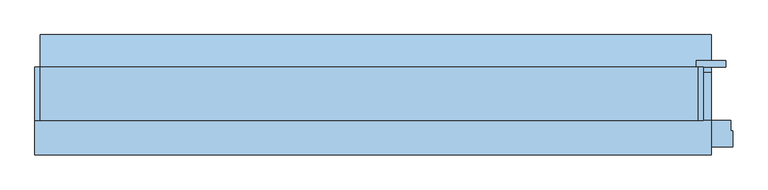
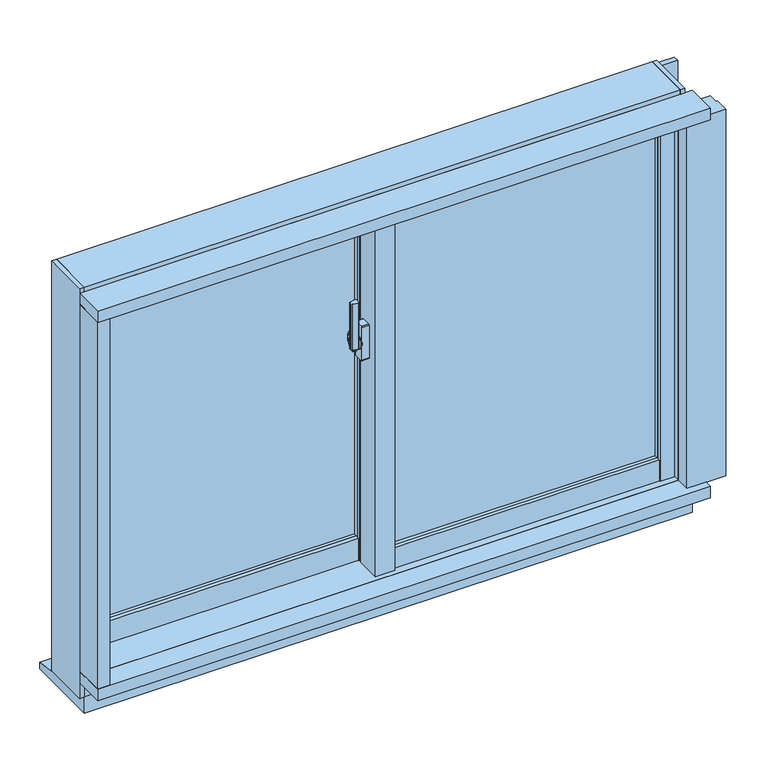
"""IFC4 building model written with IfcOpenShell, lengths in millimetres: window geometry, FNSⅡ100R_個別防火_RC枠_単窓 : 引違."""

from ifc_helpers import new_model, si_unit, point, frame, frame_2d, origin, place, context, project, spatial, polyline, circle_curve, trimmed, segment, composite_curve, outline, extrude, faceted_brep, source, transform, mapped, element, save
from ifc_brep_helpers import plane_surface, cylinder_surface, revolved_surface, advanced_brep


def window_9ac953a6(model_context):
    return source(origin(), model_context, "Body", "SolidModel", [
        extrude(outline(composite_curve([segment(polyline([(-39.0, -20.4), (-39.0, -28.6)]), True, "CONTINUOUS"), segment(trimmed(circle_curve(frame_2d((-41.0, -28.6)), 2.0), [point((-39.0, -28.6))], [point((-41.3606557, -30.5672131))], False, "CARTESIAN"), True, "CONTINUOUS"), segment(polyline([(-41.3606557, -30.5672131), (-52.3606557, -28.5505464)]), True, "CONTINUOUS"), segment(trimmed(circle_curve(frame_2d((-52.0, -26.5833333)), 2.0), [point((-52.3606557, -28.5505464))], [point((-54.0, -26.5833333))], False, "CARTESIAN"), True, "CONTINUOUS"), segment(polyline([(-54.0, -26.5833333), (-54.0, -22.4166667)]), True, "CONTINUOUS"), segment(trimmed(circle_curve(frame_2d((-52.0, -22.4166667)), 2.0), [point((-54.0, -22.4166667))], [point((-52.3606557, -20.4494536))], False, "CARTESIAN"), True, "CONTINUOUS"), segment(polyline([(-52.3606557, -20.4494536), (-41.3606557, -18.4327869)]), True, "CONTINUOUS"), segment(trimmed(circle_curve(frame_2d((-41.0, -20.4)), 2.0), [point((-41.3606557, -18.4327869))], [point((-39.0, -20.4))], False, "CARTESIAN"), True, "CONTINUOUS")], self_intersect=False)), frame((0.0, 0.0, 1390.0), z_axis=(0.0, 0.0, 1.0), x_axis=(1.0, 0.0, 0.0)), (0.0, 0.0, 1.0), 100.0),
        advanced_brep(
        [(-37.5, -16.1765715, 1421.7333311), (-45.5, -16.1765715, 1421.7333311), (-45.5, -16.5648001, 1420.2844424), (-39.0, -16.5648001, 1420.2844424), (-39.0, -18.3765334, 1413.5229616), (-37.5, -18.3765334, 1413.5229616), (-39.0, -18.3533883, 1379.3190372), (-45.5, -18.3533883, 1379.3190372), (-45.5, -18.092916, 1377.8418256), (-37.5, -18.092916, 1377.8418256), (-37.5, -19.5689255, 1386.2126915), (-39.0, -19.5689255, 1386.2126915)],
        [
            (0, 1),
            (1, 2),
            (2, 3),
            (3, 4),
            (4, 5),
            (5, 0),
            (6, 7),
            (7, 8),
            (8, 9),
            (9, 10),
            (10, 11),
            (11, 6),
            (0, 9, circle_curve(frame((-37.5, -22.0, 1400.0), z_axis=(-1.0, 0.0, 0.0), x_axis=(0.0, 0.25881904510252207, 0.965925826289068)), 22.5)),
            (8, 1, circle_curve(frame((-45.5, -22.0, 1400.0), z_axis=(1.0, 0.0, 0.0), x_axis=(0.0, 0.25881904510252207, 0.965925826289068)), 22.5)),
            (7, 2, circle_curve(frame((-45.5, -22.0, 1400.0), z_axis=(1.0, 0.0, 0.0), x_axis=(0.0, 0.25881904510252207, 0.965925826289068)), 21.0)),
            (6, 3, circle_curve(frame((-39.0, -22.0, 1400.0), z_axis=(1.0, 0.0, 0.0), x_axis=(0.0, 0.25881904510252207, 0.965925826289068)), 21.0)),
            (11, 4, circle_curve(frame((-39.0, -22.0, 1400.0), z_axis=(-1.0, 0.0, 0.0), x_axis=(0.0, -1.0, 0.0)), 14.0)),
            (5, 10, circle_curve(frame((-37.5, -22.0, 1400.0), z_axis=(1.0, 0.0, 0.0), x_axis=(0.0, -1.0, 0.0)), 14.0)),
        ],
        [
            plane_surface(frame((-43.5470497, -22.0, 1400.0), z_axis=(0.0, -0.965925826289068, 0.25881904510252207), x_axis=(0.0, 0.25881904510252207, 0.965925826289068))),
            plane_surface(frame((-43.5470497, -22.0, 1400.0), z_axis=(0.0, -0.9848077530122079, -0.17364817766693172), x_axis=(0.0, 0.17364817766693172, -0.9848077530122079))),
            cylinder_surface(frame((-43.5470497, -22.0, 1400.0), z_axis=(-1.0, 0.0, 0.0), x_axis=(0.0, 0.25881904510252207, 0.965925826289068)), 22.5),
            plane_surface(frame((-45.5, -22.0, 1400.0), z_axis=(-1.0, 0.0, 0.0), x_axis=(0.0, 0.25881904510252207, 0.965925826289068))),
            revolved_surface(polyline([(-45.5, -16.564800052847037, 1420.2844423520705), (-39.0, -16.564800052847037, 1420.2844423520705)]), (-43.5470497, -22.0, 1400.0), (-1.0, 0.0, 0.0)),
            plane_surface(frame((-39.0, -22.0, 1400.0), z_axis=(-1.0, 0.0, 0.0), x_axis=(0.0, 0.25881904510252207, 0.965925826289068))),
            plane_surface(frame((-37.5, -22.0, 1400.0), z_axis=(1.0, 0.0, 0.0), x_axis=(0.0, 0.25881904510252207, 0.965925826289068))),
            cylinder_surface(frame((-37.5, -22.0, 1400.0), z_axis=(-1.0, 0.0, 0.0), x_axis=(0.0, -1.0, 0.0)), 14.0),
        ],
        [
            (0, [[1, 2, 3, 4, 5, 6]]),
            (1, [[7, 8, 9, 10, 11, 12]]),
            (2, [[-1, 13, -9, 14]]),
            (3, [[-2, -14, -8, 15]]),
            (4, [[-3, -15, -7, 16]]),
            (5, [[-16, -12, 17, -4]]),
            (6, [[-13, -6, 18, -10]]),
            (7, [[-17, -11, -18, -5]]),
        ],
    ),
        extrude(outline(composite_curve([segment(trimmed(circle_curve(frame_2d((-22.0, 1400.0)), 11.5), [point((-10.5, 1400.0))], [point((-33.5, 1400.0))], False, "CARTESIAN"), True, "CONTINUOUS"), segment(trimmed(circle_curve(frame_2d((-22.0, 1400.0)), 11.5), [point((-33.5, 1400.0))], [point((-10.5, 1400.0))], False, "CARTESIAN"), True, "CONTINUOUS")], self_intersect=False)), frame((-37.5, 0.0, 0.0), z_axis=(1.0, 0.0, 0.0), x_axis=(0.0, 1.0, 0.0)), (0.0, 0.0, 1.0), 2.5),
        extrude(outline(composite_curve([segment(polyline([(-31.0, 1437.5), (-13.0, 1437.5)]), True, "CONTINUOUS"), segment(trimmed(circle_curve(frame_2d((-13.0, 1435.5)), 2.0), [point((-13.0, 1437.5))], [point((-11.0, 1435.5))], False, "CARTESIAN"), True, "CONTINUOUS"), segment(polyline([(-11.0, 1435.5), (-11.0, 1364.5)]), True, "CONTINUOUS"), segment(trimmed(circle_curve(frame_2d((-13.0, 1364.5)), 2.0), [point((-11.0, 1364.5))], [point((-13.0, 1362.5))], False, "CARTESIAN"), True, "CONTINUOUS"), segment(polyline([(-13.0, 1362.5), (-31.0, 1362.5)]), True, "CONTINUOUS"), segment(trimmed(circle_curve(frame_2d((-31.0, 1364.5)), 2.0), [point((-31.0, 1362.5))], [point((-33.0, 1364.5))], False, "CARTESIAN"), True, "CONTINUOUS"), segment(polyline([(-33.0, 1364.5), (-33.0, 1435.5)]), True, "CONTINUOUS"), segment(trimmed(circle_curve(frame_2d((-31.0, 1435.5)), 2.0), [point((-33.0, 1435.5))], [point((-31.0, 1437.5))], False, "CARTESIAN"), True, "CONTINUOUS")], self_intersect=False)), frame((-35.0, 0.0, 0.0), z_axis=(1.0, 0.0, 0.0), x_axis=(0.0, 1.0, 0.0)), (0.0, 0.0, 1.0), 15.0),
        extrude(outline(polyline([(20.0, -31.0), (568.0, -31.0), (568.0, -37.0), (20.0, -37.0), (20.0, -31.0)])), frame((0.0, 0.0, 948.0), z_axis=(0.0, 0.0, 1.0), x_axis=(1.0, 0.0, 0.0)), (0.0, 0.0, 1.0), 712.0),
        extrude(outline(polyline([(20.0, -13.0), (568.0, -13.0), (568.0, -19.0), (20.0, -19.0), (20.0, -13.0)])), frame((0.0, 0.0, 948.0), z_axis=(0.0, 0.0, 1.0), x_axis=(1.0, 0.0, 0.0)), (0.0, 0.0, 1.0), 712.0),
        extrude(outline(polyline([(-568.0, 27.0), (-20.0, 27.0), (-20.0, 21.0), (-568.0, 21.0), (-568.0, 27.0)])), frame((0.0, 0.0, 948.0), z_axis=(0.0, 0.0, 1.0), x_axis=(1.0, 0.0, 0.0)), (0.0, 0.0, 1.0), 712.0),
        extrude(outline(polyline([(-568.0, 45.0), (-20.0, 45.0), (-20.0, 39.0), (-568.0, 39.0), (-568.0, 45.0)])), frame((0.0, 0.0, 948.0), z_axis=(0.0, 0.0, 1.0), x_axis=(1.0, 0.0, 0.0)), (0.0, 0.0, 1.0), 712.0),
        faceted_brep([(-600.0, 24.0, 1700.0), (-589.5, 24.0, 1700.0), (-589.5, 11.0, 1700.0), (-568.0, 11.0, 1700.0), (-568.0, 53.0, 1700.0), (-600.0, 53.0, 1700.0), (-568.0, 24.0, 860.0), (-600.0, 24.0, 860.0), (-600.0, 53.0, 860.0), (-568.0, 53.0, 860.0), (-568.0, 24.0, 900.0), (-589.5, 24.0, 900.0), (-589.5, 11.0, 900.0), (-568.0, 11.0, 900.0)], [[[0, 1, 2, 3, 4, 5]], [[6, 7, 8, 9]], [[1, 0, 7, 6, 10, 11]], [[2, 1, 11, 12]], [[3, 2, 12, 13]], [[4, 3, 13, 10, 6, 9]], [[5, 4, 9, 8]], [[7, 0, 5, 8]], [[11, 10, 13, 12]]]),
        faceted_brep([(-20.0, 10.5, 1700.0), (-1.8, 10.5, 1700.0), (-1.8, -1.9, 1700.0), (20.0, -1.9, 1700.0), (20.0, 53.0, 1700.0), (-20.0, 53.0, 1700.0), (-20.0, 53.0, 860.0), (20.0, 53.0, 860.0), (20.0, 24.0, 860.0), (-20.0, 24.0, 860.0), (-20.0, 10.5, 900.0), (-1.8, 10.5, 900.0), (-1.8, -1.9, 900.0), (20.0, -1.9, 900.0), (20.0, 24.0, 900.0), (-20.0, 24.0, 900.0)], [[[0, 1, 2, 3, 4, 5]], [[6, 7, 8, 9]], [[1, 0, 10, 11]], [[2, 1, 11, 12]], [[3, 2, 12, 13]], [[4, 3, 13, 14, 8, 7]], [[5, 4, 7, 6]], [[0, 5, 6, 9, 15, 10]], [[14, 15, 9, 8]], [[15, 14, 13, 12, 11, 10]]]),
        extrude(outline(polyline([(-20.0, -1.9), (-15.0, -1.9), (-15.0, -47.0), (15.0, -47.0), (15.0, -43.0), (20.0, -43.0), (20.0, -55.0), (-20.0, -55.0), (-20.0, -1.9)])), frame((0.0, 0.0, 900.0), z_axis=(0.0, 0.0, 1.0), x_axis=(1.0, 0.0, 0.0)), (0.0, 0.0, 1.0), 800.0),
        extrude(outline(polyline([(-15.0, -1.9), (20.0, -1.9), (20.0, -43.0), (15.0, -43.0), (15.0, -47.0), (-15.0, -47.0), (-15.0, -1.9)])), frame((0.0, 0.0, 900.0), z_axis=(0.0, 0.0, 1.0), x_axis=(1.0, 0.0, 0.0)), (0.0, 0.0, 1.0), 800.0),
        extrude(outline(polyline([(568.0, -55.0), (568.0, -47.0), (589.5, -47.0), (589.5, -34.0), (597.0, -34.0), (597.0, -55.0), (568.0, -55.0)])), frame((0.0, 0.0, 903.0), z_axis=(0.0, 0.0, 1.0), x_axis=(1.0, 0.0, 0.0)), (0.0, 0.0, 1.0), 797.0),
        extrude(outline(polyline([(568.0, -5.0), (600.0, -5.0), (600.0, -34.0), (589.5, -34.0), (589.5, -47.0), (568.0, -47.0), (568.0, -5.0)])), frame((0.0, 0.0, 900.0), z_axis=(0.0, 0.0, 1.0), x_axis=(1.0, 0.0, 0.0)), (0.0, 0.0, 1.0), 800.0),
        extrude(outline(polyline([(-1.85, 10.5), (-1.85, 3.0), (-20.0, 3.0), (-20.0, 10.5), (-1.85, 10.5)])), frame((0.0, 0.0, 900.0), z_axis=(0.0, 0.0, 1.0), x_axis=(1.0, 0.0, 0.0)), (0.0, 0.0, 1.0), 800.0),
        extrude(outline(polyline([(-597.0, 24.0), (-589.5, 24.0), (-589.5, 11.0), (-568.0, 11.0), (-568.0, 3.0), (-597.0, 3.0), (-597.0, 24.0)])), frame((0.0, 0.0, 900.0), z_axis=(0.0, 0.0, 1.0), x_axis=(1.0, 0.0, 0.0)), (0.0, 0.0, 1.0), 800.0),
        extrude(outline(polyline([(-53.0, 903.0), (-53.0, 948.0), (-45.0, 948.0), (-45.0, 925.5), (-34.0, 925.5), (-34.0, 903.0), (-53.0, 903.0)])), frame((20.0, 0.0, 0.0), z_axis=(1.0, 0.0, 0.0), x_axis=(0.0, 1.0, 0.0)), (0.0, 0.0, 1.0), 548.0),
        extrude(outline(polyline([(-5.0, 900.0), (-34.0, 900.0), (-34.0, 925.5), (-45.0, 925.5), (-45.0, 948.0), (-5.0, 948.0), (-5.0, 900.0)])), frame((20.0, 0.0, 0.0), z_axis=(1.0, 0.0, 0.0), x_axis=(0.0, 1.0, 0.0)), (0.0, 0.0, 1.0), 548.0),
        extrude(outline(polyline([(5.0, 948.0), (13.0, 948.0), (13.0, 925.5), (24.0, 925.5), (24.0, 900.0), (5.0, 900.0), (5.0, 948.0)])), frame((-568.0, 0.0, 0.0), z_axis=(1.0, 0.0, 0.0), x_axis=(0.0, 1.0, 0.0)), (0.0, 0.0, 1.0), 548.0),
        extrude(outline(polyline([(53.0, 860.0), (24.0, 860.0), (24.0, 925.5), (13.0, 925.5), (13.0, 948.0), (53.0, 948.0), (53.0, 860.0)])), frame((-568.0, 0.0, 0.0), z_axis=(1.0, 0.0, 0.0), x_axis=(0.0, 1.0, 0.0)), (0.0, 0.0, 1.0), 548.0),
        extrude(outline(polyline([(-32.0, 1680.5), (-45.0, 1680.5), (-45.0, 1660.0), (-53.0, 1660.0), (-53.0, 1700.0), (-32.0, 1700.0), (-32.0, 1680.5)])), frame((20.0, 0.0, 0.0), z_axis=(1.0, 0.0, 0.0), x_axis=(0.0, 1.0, 0.0)), (0.0, 0.0, 1.0), 548.0),
        extrude(outline(polyline([(-5.0, 1700.0), (-5.0, 1660.0), (-45.0, 1660.0), (-45.0, 1680.5), (-32.0, 1680.5), (-32.0, 1700.0), (-5.0, 1700.0)])), frame((20.0, 0.0, 0.0), z_axis=(1.0, 0.0, 0.0), x_axis=(0.0, 1.0, 0.0)), (0.0, 0.0, 1.0), 548.0),
        extrude(outline(polyline([(26.0, 1680.5), (13.0, 1680.5), (13.0, 1660.0), (5.0, 1660.0), (5.0, 1700.0), (26.0, 1700.0), (26.0, 1680.5)])), frame((-568.0, 0.0, 0.0), z_axis=(1.0, 0.0, 0.0), x_axis=(0.0, 1.0, 0.0)), (0.0, 0.0, 1.0), 548.0),
        extrude(outline(polyline([(53.0, 1700.0), (53.0, 1660.0), (13.0, 1660.0), (13.0, 1680.5), (26.0, 1680.5), (26.0, 1700.0), (53.0, 1700.0)])), frame((-568.0, 0.0, 0.0), z_axis=(1.0, 0.0, 0.0), x_axis=(0.0, 1.0, 0.0)), (0.0, 0.0, 1.0), 548.0),
        extrude(outline(polyline([(-15.0, 25.3), (-15.0, -23.1), (-600.0, -23.1), (-600.0, 25.3), (-15.0, 25.3)])), frame((0.0, 0.0, 1700.0), z_axis=(0.0, 0.0, 1.0), x_axis=(1.0, 0.0, 0.0)), (0.0, 0.0, 1.0), 25.0),
        faceted_brep([(615.0, 25.3, 1725.0), (615.0, -45.0, 1725.0), (-615.0, -45.0, 1725.0), (-615.0, 25.3, 1725.0), (-15.0, 25.3, 1725.0), (-15.0, -23.1, 1725.0), (600.0, -23.1, 1725.0), (600.0, 25.3, 1725.0), (615.0, 25.3, 1700.0), (600.0, 25.3, 1700.0), (-615.0, 25.3, 1700.0), (-15.0, 25.3, 1700.0), (615.0, 55.0, 1700.0), (600.0, -23.1, 1700.0), (-15.0, -23.1, 1700.0), (-615.0, 55.0, 1700.0), (615.0, 55.0, 1735.0), (-615.0, 55.0, 1735.0), (615.0, -45.0, 1735.0), (-615.0, -45.0, 1735.0)], [[[0, 1, 2, 3, 4, 5, 6, 7]], [[8, 0, 7, 9]], [[3, 10, 11, 4]], [[12, 8, 9, 13, 14, 11, 10, 15]], [[16, 12, 15, 17]], [[18, 16, 17, 19]], [[1, 18, 19, 2]], [[12, 16, 18, 1, 0, 8]], [[15, 10, 3, 2, 19, 17]], [[6, 13, 9, 7]], [[11, 14, 5, 4]], [[13, 6, 5, 14]]]),
        extrude(outline(polyline([(-23.1, 1700.0), (-65.0, 1700.0), (-65.0, 1703.0), (-45.0, 1703.0), (-45.0, 1725.0), (-23.1, 1725.0), (-23.1, 1700.0)])), frame((-600.0, 0.0, 0.0), z_axis=(1.0, 0.0, 0.0), x_axis=(0.0, 1.0, 0.0)), (0.0, 0.0, 1.0), 1200.0),
        faceted_brep([(600.0, -45.0, 1720.0), (615.0, -45.0, 1720.0), (615.0, -40.5, 1720.0), (600.0, -40.5, 1720.0), (600.0, -65.0, 900.0), (600.0, -40.5, 900.0), (615.0, -40.5, 900.0), (615.0, -45.0, 900.0), (603.0, -45.0, 900.0), (603.0, -65.0, 900.0), (603.0, -65.0, 1703.0), (600.0, -65.0, 1703.0), (603.0, -45.0, 1703.0), (600.0, -45.0, 1703.0)], [[[0, 1, 2, 3]], [[4, 5, 6, 7, 8, 9]], [[4, 9, 10, 11]], [[9, 8, 12, 10]], [[0, 13, 12, 8, 7, 1]], [[2, 1, 7, 6]], [[3, 2, 6, 5]], [[5, 4, 11, 13, 0, 3]], [[12, 13, 11, 10]]]),
        faceted_brep([(-615.0, -45.0, 1720.0), (-600.0, -45.0, 1720.0), (-600.0, 21.0, 1720.0), (-615.0, 21.0, 1720.0), (-615.0, -45.0, 900.0), (-615.0, 21.0, 900.0), (-600.0, 21.0, 900.0), (-600.0, -65.0, 900.0), (-603.0, -65.0, 900.0), (-603.0, -45.0, 900.0), (-603.0, -45.0, 1703.0), (-600.0, -45.0, 1703.0), (-603.0, -65.0, 1703.0), (-600.0, -65.0, 1703.0)], [[[0, 1, 2, 3]], [[4, 5, 6, 7, 8, 9]], [[4, 9, 10, 11, 1, 0]], [[9, 8, 12, 10]], [[8, 7, 13, 12]], [[7, 6, 2, 1, 11, 13]], [[3, 2, 6, 5]], [[4, 0, 3, 5]], [[11, 10, 12, 13]]]),
        faceted_brep([(-625.0, 55.0, 1735.0), (-625.0, -45.0, 1735.0), (-615.0, -45.0, 1735.0), (-615.0, 55.0, 1735.0), (-625.0, 55.0, 840.0), (-615.0, 55.0, 840.0), (-615.0, -45.0, 840.0), (-625.0, -45.0, 840.0), (-615.0, 55.0, 849.0), (-615.0, 21.0, 849.0), (-615.0, 21.0, 1700.0), (-615.0, 55.0, 1700.0), (-600.0, 55.0, 1700.0), (-600.0, 55.0, 849.0), (-600.0, 21.0, 1700.0), (-600.0, 21.0, 849.0)], [[[0, 1, 2, 3]], [[4, 5, 6, 7]], [[1, 0, 4, 7]], [[2, 1, 7, 6]], [[3, 2, 6, 5, 8, 9, 10, 11]], [[0, 3, 11, 12, 13, 8, 5, 4]], [[12, 11, 10, 14]], [[13, 15, 9, 8]], [[14, 10, 9, 15]], [[12, 14, 15, 13]]]),
        faceted_brep([(615.0, -45.0, 1735.0), (625.0, -45.0, 1735.0), (625.0, 55.0, 1735.0), (615.0, 55.0, 1735.0), (615.0, -45.0, 840.0), (615.0, 55.0, 840.0), (625.0, 55.0, 840.0), (625.0, -45.0, 840.0), (615.0, -40.5, 1700.0), (600.0, -40.5, 1700.0), (600.0, -40.5, 849.0), (615.0, -40.5, 849.0), (600.0, 55.0, 1700.0), (600.0, 55.0, 849.0), (615.0, 55.0, 1700.0), (615.0, 55.0, 849.0)], [[[0, 1, 2, 3]], [[4, 5, 6, 7]], [[8, 9, 10, 11]], [[9, 12, 13, 10]], [[9, 8, 14, 12]], [[10, 13, 15, 11]], [[1, 0, 4, 7]], [[2, 1, 7, 6]], [[3, 2, 6, 5, 15, 13, 12, 14]], [[0, 3, 14, 8, 11, 15, 5, 4]]]),
        faceted_brep([(615.0, -45.0, 884.0), (615.0, 21.0, 884.0), (-615.0, 21.0, 884.0), (-615.0, -45.0, 884.0), (600.0, -17.75, 884.0), (600.0, -36.2, 884.0), (-15.0, -36.2, 884.0), (-15.0, -17.75, 884.0), (615.0, 21.0, 849.0), (-615.0, 21.0, 849.0), (615.0, 55.0, 849.0), (-615.0, 55.0, 849.0), (615.0, 55.0, 840.0), (615.0, -45.0, 840.0), (-615.0, -45.0, 840.0), (-615.0, 55.0, 840.0), (600.0, -36.2, 900.0), (600.0, -17.75, 900.0), (-15.0, -36.2, 900.0), (-15.0, -17.75, 900.0)], [[[0, 1, 2, 3], [4, 5, 6, 7]], [[1, 8, 9, 2]], [[8, 10, 11, 9]], [[12, 13, 14, 15]], [[12, 10, 8, 1, 0, 13]], [[15, 14, 3, 2, 9, 11]], [[13, 0, 3, 14]], [[10, 12, 15, 11]], [[16, 5, 4, 17]], [[18, 19, 7, 6]], [[5, 16, 18, 6]], [[17, 4, 7, 19]], [[16, 17, 19, 18]]]),
        faceted_brep([(603.0, -65.0, 900.0), (603.0, -65.0, 897.0), (603.0, -45.0, 897.0), (603.0, -45.0, 884.0), (603.0, -40.5, 884.0), (603.0, -40.5, 900.0), (-603.0, -45.0, 884.0), (-603.0, -45.0, 897.0), (-603.0, -65.0, 897.0), (-603.0, -65.0, 900.0), (-603.0, -36.2, 900.0), (-603.0, -36.2, 884.0), (600.0, -40.5, 900.0), (600.0, -36.2, 900.0), (-15.0, -36.2, 900.0), (-15.0, 21.0, 900.0), (-600.0, 21.0, 900.0), (-600.0, -36.2, 900.0), (-600.0, -36.2, 884.0), (600.0, -36.2, 884.0), (-15.0, -36.2, 884.0), (-600.0, 21.0, 884.0), (-15.0, 21.0, 884.0), (600.0, -40.5, 884.0)], [[[0, 1, 2, 3, 4, 5]], [[6, 7, 8, 9, 10, 11]], [[3, 2, 7, 6]], [[2, 1, 8, 7]], [[1, 0, 9, 8]], [[10, 9, 0, 5, 12, 13, 14, 15, 16, 17]], [[11, 10, 17, 18]], [[13, 19, 20, 14]], [[6, 11, 18, 21, 22, 20, 19, 23, 4, 3]], [[12, 23, 19, 13]], [[23, 12, 5, 4]], [[15, 14, 20, 22]], [[16, 21, 18, 17]], [[15, 22, 21, 16]]]),
        extrude(outline(polyline([(-110.0, 900.0), (-65.0, 900.0), (-65.0, 897.0), (-45.0, 897.0), (-45.0, 875.0), (-110.0, 875.0), (-110.0, 900.0)])), frame((-625.0, 0.0, 0.0), z_axis=(1.0, 0.0, 0.0), x_axis=(0.0, 1.0, 0.0)), (0.0, 0.0, 1.0), 1265.0),
        extrude(outline(polyline([(45.0, 840.0), (55.0, 840.0), (55.0, 828.4285714), (45.0, 830.0), (45.0, 840.0)])), frame((-615.0, 0.0, 0.0), z_axis=(1.0, 0.0, 0.0), x_axis=(0.0, 1.0, 0.0)), (0.0, 0.0, 1.0), 1255.0),
        extrude(outline(polyline([(-45.0, 804.0), (-45.0, 840.0), (45.0, 840.0), (45.0, 830.0), (115.0, 819.0), (115.0, 804.0), (-45.0, 804.0)])), frame((-615.0, 0.0, 0.0), z_axis=(1.0, 0.0, 0.0), x_axis=(0.0, 1.0, 0.0)), (0.0, 0.0, 1.0), 1255.0),
        extrude(outline(polyline([(-603.0, -45.0), (-603.0, -65.0), (-600.0, -65.0), (-600.0, -110.0), (-625.0, -110.0), (-625.0, -45.0), (-603.0, -45.0)])), frame((0.0, 0.0, 900.0), z_axis=(0.0, 0.0, 1.0), x_axis=(1.0, 0.0, 0.0)), (0.0, 0.0, 1.0), 800.0),
        extrude(outline(polyline([(603.0, -65.0), (603.0, -45.0), (677.0, -45.0), (677.0, -65.0), (680.0, -65.0), (680.0, -95.0), (600.0, -95.0), (600.0, -65.0), (603.0, -65.0)])), frame((0.0, 0.0, 900.0), z_axis=(0.0, 0.0, 1.0), x_axis=(1.0, 0.0, 0.0)), (0.0, 0.0, 1.0), 800.0),
        extrude(outline(polyline([(667.5, 55.0), (612.5, 55.0), (612.5, 67.0), (667.5, 67.0), (667.5, 55.0)])), frame((0.0, 0.0, 840.0), z_axis=(0.0, 0.0, 1.0), x_axis=(1.0, 0.0, 0.0)), (0.0, 0.0, 1.0), 880.0),
        extrude(outline(polyline([(-110.0, 1725.0), (-45.0, 1725.0), (-45.0, 1703.0), (-65.0, 1703.0), (-65.0, 1700.0), (-110.0, 1700.0), (-110.0, 1725.0)])), frame((-625.0, 0.0, 0.0), z_axis=(1.0, 0.0, 0.0), x_axis=(0.0, 1.0, 0.0)), (0.0, 0.0, 1.0), 1265.0),
    ])


if __name__ == "__main__":
    model = new_model("IFC4")
    model_context = context("Model", 3, world=origin())
    ifc_project = project(units=[si_unit("LENGTHUNIT", "METRE", prefix="MILLI")], contexts=[model_context])
    site = spatial("IfcSite", under=ifc_project)
    building = spatial("IfcBuilding", under=site)
    placement = place(None, origin())
    window_shape = window_9ac953a6(model_context)
    element("IfcWindow", 1, ObjectType="FNSⅡ100R_個別防火_RC枠_単窓 : 引違", at=placement, inside=building, context=model_context, shape_type="MappedRepresentation", body=[
        mapped(window_shape, transform((0.0, 0.0, 0.0), x_axis=(1.0, 0.0, 0.0), y_axis=(0.0, 1.0, 0.0), z_axis=(0.0, 0.0, 1.0))),
    ])
    save(model, "model.ifc")
